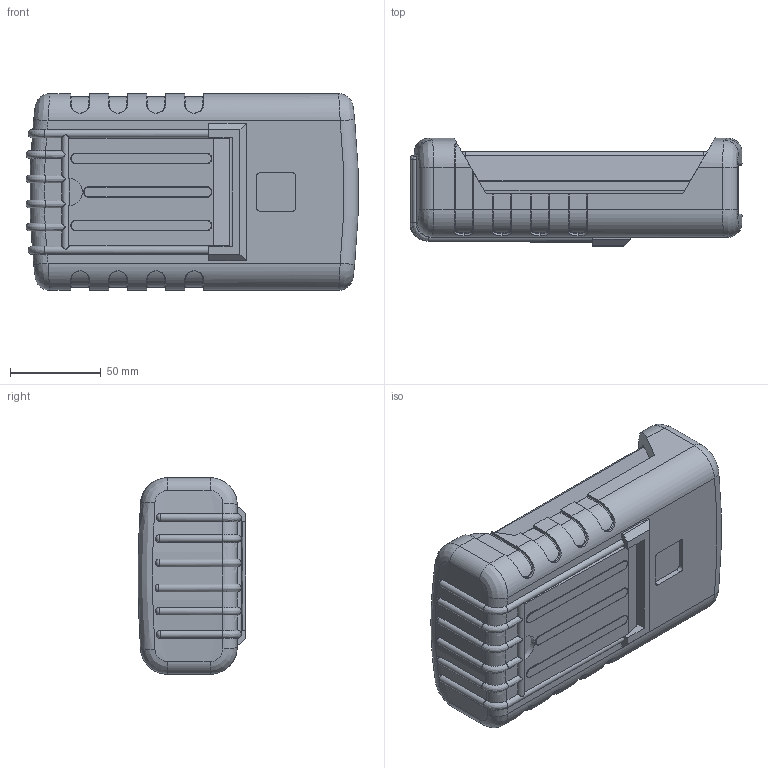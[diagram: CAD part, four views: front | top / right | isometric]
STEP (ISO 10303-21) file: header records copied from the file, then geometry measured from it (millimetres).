
FILE_DESCRIPTION (( 'STEP AP214' ), '1' );
FILE_NAME ('91-43-9V-E-R.STEP', '2020-10-19T17:43:42', ( 'Rudy' ), ( '' ), 'SwSTEP 2.0', 'SolidWorks 2014', '' );
FILE_SCHEMA (( 'AUTOMOTIVE_DESIGN' ));
Length unit declared in the file: inch
Products named in the file (9): 90 RBE Boot; RE 90 stand; 90 PCB 9V; 90 LCD Expander; 9V door; 91 LCD Top; 90-9V; 91-43-9V-E-R
Assembly tree (8 placements, depth 3):
  91-43-9V-E-R
    90-9V
    91 LCD Top
    9V door
    90 LCD Expander
    90 PCB 9V
    90 RBE Boot
      90 RBE Boot
      RE 90 stand
Bounding box: 183.26 x 59.56 x 108.46 mm (x, y, z)
Volume: 410168 mm3; surface area: 216138 mm2
Topology: 7 solids, 7 shells, 1094 faces, 2890 edges, 1850 vertices
Faces by surface type: plane 578, cylinder 306, bspline 76, cone 68, torus 53, sphere 13
Entity records: 40686 total; most frequent: CARTESIAN_POINT 13696, ORIENTED_EDGE 5740, DIRECTION 5350, EDGE_CURVE 2870, VERTEX_POINT 1842, AXIS2_PLACEMENT_3D 1807, VECTOR 1736, LINE 1736
